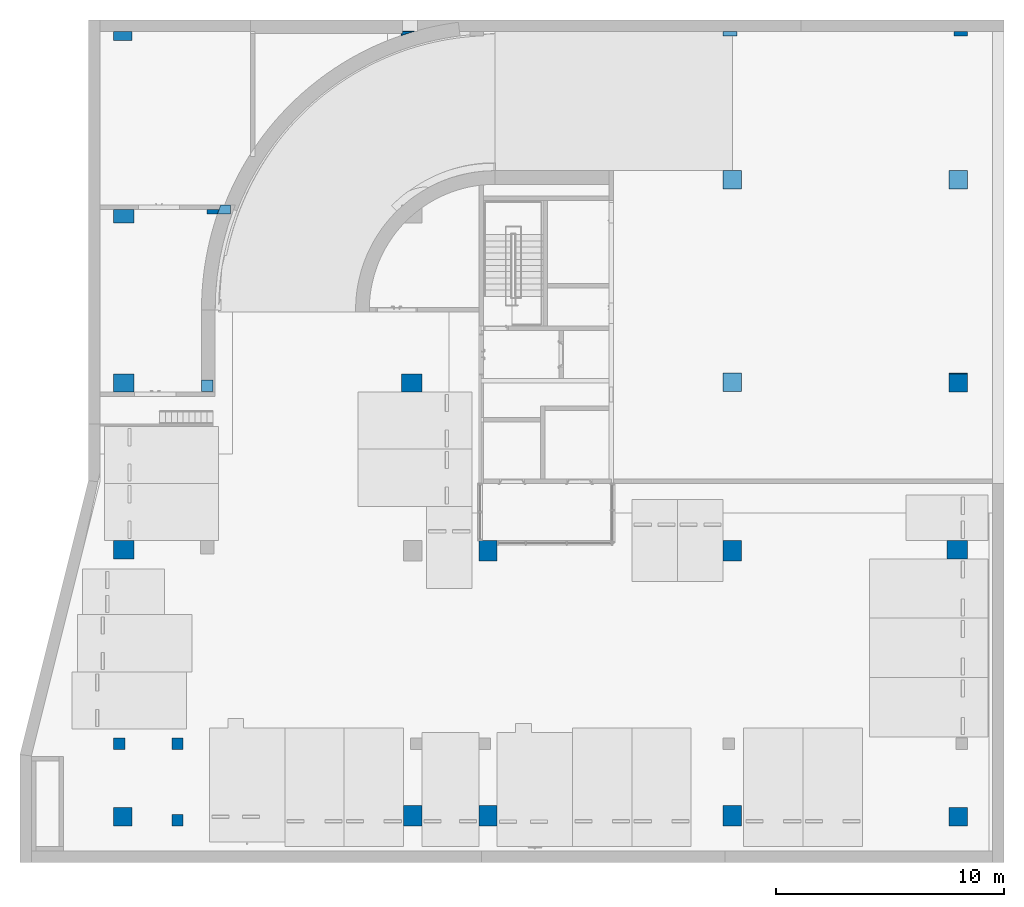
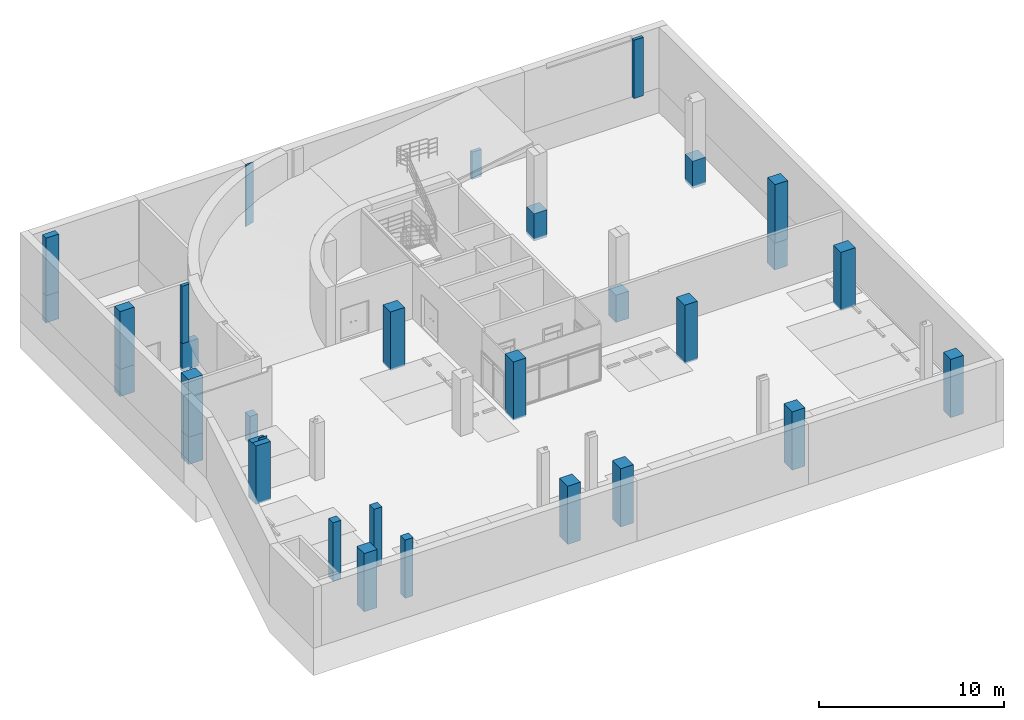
# One storey, part 1 of 30: 30 columns.
"""IFC2X3 building model written with IfcOpenShell, lengths in millimetres."""

from ifc_helpers import new_model, entity, si_unit, converted_unit, derived_unit, direction, frame, frame_2d, origin, origin_2d_with_axis, place, context, subcontext, project, spatial, polyline, circle_curve, parameter, trimmed, segment, composite_curve, rectangle, outline, extrude, faceted_brep, source, transform, mapped, material, type_object, type_shapes, element, save


model = new_model("IFC2X3")

# Units and contexts
model_context = context("Model", 3, precision=0.01, world=origin(), true_north=direction((6.123031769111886e-17, 1.0)))
body_context = subcontext(model_context, "Body", "Model", "MODEL_VIEW")
ifc_project = project(units=[si_unit("LENGTHUNIT", "METRE", prefix="MILLI"), si_unit("AREAUNIT", "SQUARE_METRE"), si_unit("VOLUMEUNIT", "CUBIC_METRE"), converted_unit("PLANEANGLEUNIT", "DEGREE", entity("IfcRatioMeasure", 0.017453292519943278), si_unit("PLANEANGLEUNIT", "RADIAN"), dimensions=[0, 0, 0, 0, 0, 0, 0]), si_unit("MASSUNIT", "GRAM", prefix="KILO"), derived_unit("MASSDENSITYUNIT", [(si_unit("MASSUNIT", "GRAM", prefix="KILO"), 1), (si_unit("LENGTHUNIT", "METRE"), -3)]), derived_unit("MOMENTOFINERTIAUNIT", [(si_unit("LENGTHUNIT", "METRE"), 4)]), si_unit("TIMEUNIT", "SECOND"), si_unit("FREQUENCYUNIT", "HERTZ"), si_unit("THERMODYNAMICTEMPERATUREUNIT", "DEGREE_CELSIUS"), derived_unit("THERMALTRANSMITTANCEUNIT", [(si_unit("MASSUNIT", "GRAM", prefix="KILO"), 1), (si_unit("THERMODYNAMICTEMPERATUREUNIT", "KELVIN"), -1), (si_unit("TIMEUNIT", "SECOND"), -3)]), derived_unit("VOLUMETRICFLOWRATEUNIT", [(si_unit("LENGTHUNIT", "METRE"), 3), (si_unit("TIMEUNIT", "SECOND"), -1)]), derived_unit("MASSFLOWRATEUNIT", [(si_unit("MASSUNIT", "GRAM", prefix="KILO"), 1), (si_unit("TIMEUNIT", "SECOND"), -1)]), derived_unit("ROTATIONALFREQUENCYUNIT", [(si_unit("TIMEUNIT", "SECOND"), -1)]), si_unit("ELECTRICCURRENTUNIT", "AMPERE"), si_unit("ELECTRICVOLTAGEUNIT", "VOLT"), si_unit("POWERUNIT", "WATT"), si_unit("FORCEUNIT", "NEWTON", prefix="KILO"), si_unit("ILLUMINANCEUNIT", "LUX"), si_unit("LUMINOUSFLUXUNIT", "LUMEN"), si_unit("LUMINOUSINTENSITYUNIT", "CANDELA"), derived_unit("USERDEFINED", [(si_unit("MASSUNIT", "GRAM", prefix="KILO"), -1), (si_unit("LENGTHUNIT", "METRE"), -2), (si_unit("TIMEUNIT", "SECOND"), 3), (si_unit("LUMINOUSFLUXUNIT", "LUMEN"), 1)]), derived_unit("SOUNDPOWERUNIT", [(si_unit("MASSUNIT", "GRAM", prefix="KILO"), 1), (si_unit("LENGTHUNIT", "METRE"), 2), (si_unit("TIMEUNIT", "SECOND"), -3)]), derived_unit("SOUNDPRESSUREUNIT", [(si_unit("MASSUNIT", "GRAM", prefix="KILO"), 1), (si_unit("LENGTHUNIT", "METRE"), -1), (si_unit("TIMEUNIT", "SECOND"), -2)]), derived_unit("LINEARVELOCITYUNIT", [(si_unit("LENGTHUNIT", "METRE"), 1), (si_unit("TIMEUNIT", "SECOND"), -1)]), si_unit("PRESSUREUNIT", "PASCAL"), derived_unit("USERDEFINED", [(si_unit("LENGTHUNIT", "METRE"), -2), (si_unit("MASSUNIT", "GRAM", prefix="KILO"), 1), (si_unit("TIMEUNIT", "SECOND"), -2)]), derived_unit("LINEARFORCEUNIT", [(si_unit("MASSUNIT", "GRAM", prefix="KILO"), 1), (si_unit("LENGTHUNIT", "METRE"), 1), (si_unit("TIMEUNIT", "SECOND"), -2), (si_unit("LENGTHUNIT", "METRE"), -1)]), derived_unit("PLANARFORCEUNIT", [(si_unit("MASSUNIT", "GRAM", prefix="KILO"), 1), (si_unit("LENGTHUNIT", "METRE"), 1), (si_unit("TIMEUNIT", "SECOND"), -2), (si_unit("LENGTHUNIT", "METRE"), -2)])], contexts=[model_context])

# Site, building, storey
site_placement = place(None, frame((-14167.972527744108, -657.2125860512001, 0.0)))
site = spatial("IfcSite", under=ifc_project, at=site_placement, Name="Default", CompositionType="ELEMENT")
building_placement = place(site_placement, origin())
building = spatial("IfcBuilding", under=site, at=building_placement, Name="Sample Building", CompositionType="ELEMENT")
storey_placement = place(building_placement, frame((0.0, 0.0, -10100.0)))
storey = spatial("IfcBuildingStorey", under=building, at=storey_placement, Name="지하2층", CompositionType="ELEMENT", Elevation=-10100.0)

# Columns
ifc_material = material(Name="KBIMS-콘크리트")
column_type_1 = type_object("IfcColumnType", Name="CL111-철근콘크리트구조 기둥 (각형)1:CL111-철근콘크리트구조 기둥 (각형)_800x800_B2-7C3", PredefinedType="COLUMN", material=ifc_material)
shared_shape_1 = source(origin(), body_context, "Body", "SweptSolid", [
    extrude(rectangle(XDim=799.9999999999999, YDim=800.0, at=frame_2d((-5.684341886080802e-14, 0.0), x_axis=(1.0, 0.0))), frame((14467.955105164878, 957.2121951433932, -10100.0), z_axis=(0.0, 0.0, 1.0), x_axis=(0.0, -1.0, 0.0)), (0.0, 0.0, 1.0), 3849.9999999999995),
])
type_shapes(column_type_1, [shared_shape_1])
column_1_placement = place(storey_placement, frame((0.0, 0.0, 10100.0)))
element("IfcColumn", 1, at=column_1_placement, inside=storey, type_object=column_type_1, material=ifc_material, Name="CL111-철근콘크리트구조 기둥 (각형)1:CL111-철근콘크리트구조 기둥 (각형)_800x800_B2-7C3", ObjectType="CL111-철근콘크리트구조 기둥 (각형)1:CL111-철근콘크리트구조 기둥 (각형)_800x800_B2-7C3", context=body_context, shape_type="MappedRepresentation", body=[
    mapped(shared_shape_1, transform((0.0, 0.0, 0.0), scale=1.0)),
])
column_type_2 = type_object("IfcColumnType", Name="CL111-철근콘크리트구조 기둥 (각형)1:CL111-철근콘크리트구조 기둥 (각형)_800x900_B2-1C2", PredefinedType="COLUMN", material=ifc_material)
shared_shape_2 = source(origin(), body_context, "Body", "SweptSolid", [
    extrude(rectangle(XDim=900.0000000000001, YDim=800.0, at=frame_2d((-8.526512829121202e-14, 0.0), x_axis=(1.0, 0.0))), frame((27167.955141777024, 1007.2126041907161, -10100.0), z_axis=(0.0, 0.0, 1.0), x_axis=(0.0, -1.0, 0.0)), (0.0, 0.0, 1.0), 3849.9999999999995),
])
type_shapes(column_type_2, [shared_shape_2])
column_2_placement = place(storey_placement, frame((0.0, 0.0, 10100.0)))
element("IfcColumn", 2, at=column_2_placement, inside=storey, type_object=column_type_2, material=ifc_material, Name="CL111-철근콘크리트구조 기둥 (각형)1:CL111-철근콘크리트구조 기둥 (각형)_800x900_B2-1C2", ObjectType="CL111-철근콘크리트구조 기둥 (각형)1:CL111-철근콘크리트구조 기둥 (각형)_800x900_B2-1C2", context=body_context, shape_type="MappedRepresentation", body=[
    mapped(shared_shape_2, transform((0.0, 0.0, 0.0), scale=1.0)),
])
column_type_3 = type_object("IfcColumnType", Name="CL111-철근콘크리트구조 기둥 (각형)1:CL111-철근콘크리트구조 기둥 (각형)_800x900_B2-1C2", PredefinedType="COLUMN", material=ifc_material)
shared_shape_3 = source(origin(), body_context, "Body", "SweptSolid", [
    extrude(rectangle(XDim=900.0000000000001, YDim=800.0, at=frame_2d((-8.526512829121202e-14, 0.0), x_axis=(1.0, 0.0))), frame((30467.95511434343, 1007.2121951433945, -10100.0), z_axis=(0.0, 0.0, 1.0), x_axis=(0.0, -1.0, 0.0)), (0.0, 0.0, 1.0), 3849.9999999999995),
])
type_shapes(column_type_3, [shared_shape_3])
column_3_placement = place(storey_placement, frame((0.0, 0.0, 10100.0)))
element("IfcColumn", 3, at=column_3_placement, inside=storey, type_object=column_type_3, material=ifc_material, Name="CL111-철근콘크리트구조 기둥 (각형)1:CL111-철근콘크리트구조 기둥 (각형)_800x900_B2-1C2", ObjectType="CL111-철근콘크리트구조 기둥 (각형)1:CL111-철근콘크리트구조 기둥 (각형)_800x900_B2-1C2", context=body_context, shape_type="MappedRepresentation", body=[
    mapped(shared_shape_3, transform((0.0, 0.0, 0.0), scale=1.0)),
])
column_type_4 = type_object("IfcColumnType", Name="CL111-철근콘크리트구조 기둥 (각형)1:CL111-철근콘크리트구조 기둥 (각형)_800x900_B2-1C2", PredefinedType="COLUMN", material=ifc_material)
shared_shape_4 = source(origin(), body_context, "Body", "SweptSolid", [
    extrude(rectangle(XDim=900.0000000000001, YDim=800.0, at=frame_2d((-8.526512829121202e-14, -4.348521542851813e-12), x_axis=(1.0, 0.0))), frame((41167.95503460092, 1007.2121951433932, -10100.0), z_axis=(0.0, 0.0, 1.0), x_axis=(0.0, -1.0, 0.0)), (0.0, 0.0, 1.0), 3849.9999999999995),
])
type_shapes(column_type_4, [shared_shape_4])
column_4_placement = place(storey_placement, frame((0.0, 0.0, 10100.0)))
element("IfcColumn", 4, at=column_4_placement, inside=storey, type_object=column_type_4, material=ifc_material, Name="CL111-철근콘크리트구조 기둥 (각형)1:CL111-철근콘크리트구조 기둥 (각형)_800x900_B2-1C2", ObjectType="CL111-철근콘크리트구조 기둥 (각형)1:CL111-철근콘크리트구조 기둥 (각형)_800x900_B2-1C2", context=body_context, shape_type="MappedRepresentation", body=[
    mapped(shared_shape_4, transform((0.0, 0.0, 0.0), scale=1.0)),
])
column_type_5 = type_object("IfcColumnType", Name="CL111-철근콘크리트구조 기둥 (각형)1:CL111-철근콘크리트구조 기둥 (각형)_800x800_B2-7C3", PredefinedType="COLUMN", material=ifc_material)
shared_shape_5 = source(origin(), body_context, "Body", "SweptSolid", [
    extrude(rectangle(XDim=799.9999999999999, YDim=800.0, at=frame_2d((-5.684341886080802e-14, -4.348521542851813e-12), x_axis=(1.0, 0.0))), frame((51067.96383810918, 957.2128951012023, -10100.0), z_axis=(0.0, 0.0, 1.0), x_axis=(0.0, -1.0, 0.0)), (0.0, 0.0, 1.0), 3849.9999999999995),
])
type_shapes(column_type_5, [shared_shape_5])
column_5_placement = place(storey_placement, frame((0.0, 0.0, 10100.0)))
element("IfcColumn", 5, at=column_5_placement, inside=storey, type_object=column_type_5, material=ifc_material, Name="CL111-철근콘크리트구조 기둥 (각형)1:CL111-철근콘크리트구조 기둥 (각형)_800x800_B2-7C3", ObjectType="CL111-철근콘크리트구조 기둥 (각형)1:CL111-철근콘크리트구조 기둥 (각형)_800x800_B2-7C3", context=body_context, shape_type="MappedRepresentation", body=[
    mapped(shared_shape_5, transform((0.0, 0.0, 0.0), scale=1.0)),
])
column_type_6 = type_object("IfcColumnType", Name="CL111-철근콘크리트구조 기둥 (각형)1:CL111-철근콘크리트구조 기둥 (각형)_500x500_B2-B1C11", PredefinedType="COLUMN", material=ifc_material)
shared_shape_6 = source(origin(), body_context, "Body", "SweptSolid", [
    extrude(rectangle(XDim=500.00000000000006, YDim=499.999999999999, at=origin_2d_with_axis()), frame((14317.955105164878, 4157.212692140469, -10100.0), z_axis=(0.0, 0.0, 1.0), x_axis=(0.0, -1.0, 0.0)), (0.0, 0.0, 1.0), 3849.9999999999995),
])
type_shapes(column_type_6, [shared_shape_6])
column_6_placement = place(storey_placement, frame((0.0, 0.0, 10100.0)))
element("IfcColumn", 6, at=column_6_placement, inside=storey, type_object=column_type_6, material=ifc_material, Name="CL111-철근콘크리트구조 기둥 (각형)1:CL111-철근콘크리트구조 기둥 (각형)_500x500_B2-B1C11", ObjectType="CL111-철근콘크리트구조 기둥 (각형)1:CL111-철근콘크리트구조 기둥 (각형)_500x500_B2-B1C11", context=body_context, shape_type="MappedRepresentation", body=[
    mapped(shared_shape_6, transform((0.0, 0.0, 0.0), scale=1.0)),
])
column_type_7 = type_object("IfcColumnType", Name="CL111-철근콘크리트구조 기둥 (각형)1:CL111-철근콘크리트구조 기둥 (각형)_800x900_B2-1C2", PredefinedType="COLUMN", material=ifc_material)
shared_shape_7 = source(origin(), body_context, "Body", "Brep", [
    faceted_brep([(0.0, 800.0, 0.0), (900.0, 800.0, 0.0), (900.0, 0.0, 0.0), (0.0, 0.0, 0.0), (0.0, 800.0, 3800.0), (900.0, 800.0, 3800.0), (900.0, 399.9996909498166, 3800.0), (900.0, 399.9996909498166, 4000.0), (900.0, 375.7461284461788, 4000.0), (900.0, 375.7461284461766, 3850.0), (900.0, 0.0, 3850.0), (0.0, 0.0, 3850.0), (0.0, 375.7461284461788, 3850.0), (0.0, 375.7461284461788, 3800.0), (400.017349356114, 375.7461284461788, 4000.0), (400.017349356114, 399.9996909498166, 4000.0), (400.017349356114, 375.7461284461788, 3850.0), (400.017349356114, 375.7461284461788, 3800.0), (400.017349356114, 399.99969094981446, 3800.0)], [[[0, 1, 2, 3]], [[1, 0, 4, 5]], [[2, 1, 5, 6, 7, 8, 9, 10]], [[3, 2, 10, 11]], [[0, 3, 11, 12, 13, 4]], [[14, 8, 7, 15]], [[10, 9, 16, 12, 11]], [[9, 8, 14, 16]], [[13, 17, 18, 6, 5, 4]], [[16, 17, 13, 12]], [[17, 16, 14, 15, 18]], [[6, 18, 15, 7]]]),
])
type_shapes(column_type_7, [shared_shape_7])
column_7_placement = place(storey_placement, frame((14067.955105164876, 12257.212617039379, 0.0)))
element("IfcColumn", 7, at=column_7_placement, inside=storey, type_object=column_type_7, material=ifc_material, Name="CL111-철근콘크리트구조 기둥 (각형)1:CL111-철근콘크리트구조 기둥 (각형)_800x900_B2-1C2", ObjectType="CL111-철근콘크리트구조 기둥 (각형)1:CL111-철근콘크리트구조 기둥 (각형)_800x900_B2-1C2", context=body_context, shape_type="MappedRepresentation", body=[
    mapped(shared_shape_7, transform((0.0, 0.0, 0.0), scale=1.0)),
])
column_type_8 = type_object("IfcColumnType", Name="CL111-철근콘크리트구조 기둥 (각형)1:CL111-철근콘크리트구조 기둥 (각형)_800x900_B2-1C2", PredefinedType="COLUMN", material=ifc_material)
shared_shape_8 = source(origin(), body_context, "Body", "SweptSolid", [
    extrude(rectangle(XDim=899.999999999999, YDim=800.0, at=origin_2d_with_axis()), frame((30467.95511434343, 12607.212617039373, -10100.0), z_axis=(0.0, 0.0, 1.0), x_axis=(0.0, -1.0, 0.0)), (0.0, 0.0, 1.0), 3850.000000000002),
])
type_shapes(column_type_8, [shared_shape_8])
column_8_placement = place(storey_placement, frame((0.0, 0.0, 10100.0)))
element("IfcColumn", 8, at=column_8_placement, inside=storey, type_object=column_type_8, material=ifc_material, Name="CL111-철근콘크리트구조 기둥 (각형)1:CL111-철근콘크리트구조 기둥 (각형)_800x900_B2-1C2", ObjectType="CL111-철근콘크리트구조 기둥 (각형)1:CL111-철근콘크리트구조 기둥 (각형)_800x900_B2-1C2", context=body_context, shape_type="MappedRepresentation", body=[
    mapped(shared_shape_8, transform((0.0, 0.0, 0.0), scale=1.0)),
])
column_type_9 = type_object("IfcColumnType", Name="CL111-철근콘크리트구조 기둥 (각형)1:CL111-철근콘크리트구조 기둥 (각형)_800x900_B2-1C2", PredefinedType="COLUMN", material=ifc_material)
shared_shape_9 = source(origin(), body_context, "Body", "SweptSolid", [
    extrude(rectangle(XDim=899.999999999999, YDim=800.0, at=frame_2d((0.0, -4.348521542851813e-12), x_axis=(1.0, 0.0))), frame((41167.95503460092, 12607.212617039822, -10100.0), z_axis=(0.0, 0.0, 1.0), x_axis=(0.0, -1.0, 0.0)), (0.0, 0.0, 1.0), 3850.000000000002),
])
type_shapes(column_type_9, [shared_shape_9])
column_9_placement = place(storey_placement, frame((0.0, 0.0, 10100.0)))
element("IfcColumn", 9, at=column_9_placement, inside=storey, type_object=column_type_9, material=ifc_material, Name="CL111-철근콘크리트구조 기둥 (각형)1:CL111-철근콘크리트구조 기둥 (각형)_800x900_B2-1C2", ObjectType="CL111-철근콘크리트구조 기둥 (각형)1:CL111-철근콘크리트구조 기둥 (각형)_800x900_B2-1C2", context=body_context, shape_type="MappedRepresentation", body=[
    mapped(shared_shape_9, transform((0.0, 0.0, 0.0), scale=1.0)),
])
column_type_10 = type_object("IfcColumnType", Name="CL111-철근콘크리트구조 기둥 (각형)1:CL111-철근콘크리트구조 기둥 (각형)_800x900_B2-1C2", PredefinedType="COLUMN", material=ifc_material)
shared_shape_10 = source(origin(), body_context, "Body", "SweptSolid", [
    extrude(rectangle(XDim=800.0000000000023, YDim=900.0000000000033, at=origin_2d_with_axis()), frame((51017.96383810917, 12657.213038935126, -10100.0), z_axis=(0.0, 0.0, 1.0), x_axis=(0.0, -1.0, 0.0)), (0.0, 0.0, 1.0), 3850.000000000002),
])
type_shapes(column_type_10, [shared_shape_10])
column_10_placement = place(storey_placement, frame((0.0, 0.0, 10100.0)))
element("IfcColumn", 10, at=column_10_placement, inside=storey, type_object=column_type_10, material=ifc_material, Name="CL111-철근콘크리트구조 기둥 (각형)1:CL111-철근콘크리트구조 기둥 (각형)_800x900_B2-1C2", ObjectType="CL111-철근콘크리트구조 기둥 (각형)1:CL111-철근콘크리트구조 기둥 (각형)_800x900_B2-1C2", context=body_context, shape_type="MappedRepresentation", body=[
    mapped(shared_shape_10, transform((0.0, 0.0, 0.0), scale=1.0)),
])
column_type_11 = type_object("IfcColumnType", Name="CL111-철근콘크리트구조 기둥 (각형)1:CL111-철근콘크리트구조 기둥 (각형)_800x900_B2-1C2", PredefinedType="COLUMN", material=ifc_material)
shared_shape_11 = source(origin(), body_context, "Body", "SweptSolid", [
    extrude(rectangle(XDim=800.0, YDim=900.0000000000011, at=origin_2d_with_axis()), frame((14517.955105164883, 19957.21261703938, -10100.0), z_axis=(0.0, 0.0, 1.0), x_axis=(0.0, -1.0, 0.0)), (0.0, 0.0, 1.0), 3800.0000000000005),
])
type_shapes(column_type_11, [shared_shape_11])
column_11_placement = place(storey_placement, frame((0.0, 0.0, 10100.0)))
element("IfcColumn", 11, at=column_11_placement, inside=storey, type_object=column_type_11, material=ifc_material, Name="CL111-철근콘크리트구조 기둥 (각형)1:CL111-철근콘크리트구조 기둥 (각형)_800x900_B2-1C2", ObjectType="CL111-철근콘크리트구조 기둥 (각형)1:CL111-철근콘크리트구조 기둥 (각형)_800x900_B2-1C2", context=body_context, shape_type="MappedRepresentation", body=[
    mapped(shared_shape_11, transform((0.0, 0.0, 0.0), scale=1.0)),
])
column_type_12 = type_object("IfcColumnType", Name="CL111-철근콘크리트구조 기둥 (각형)1:CL111-철근콘크리트구조 기둥 (각형)_800x900_B2-1C2", PredefinedType="COLUMN", material=ifc_material)
shared_shape_12 = source(origin(), body_context, "Body", "SweptSolid", [
    extrude(rectangle(XDim=800.0, YDim=899.999999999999, at=origin_2d_with_axis()), frame((27117.955141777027, 19957.212617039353, -10100.0), z_axis=(0.0, 0.0, 1.0), x_axis=(0.0, -1.0, 0.0)), (0.0, 0.0, 1.0), 3849.9999999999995),
])
type_shapes(column_type_12, [shared_shape_12])
column_12_placement = place(storey_placement, frame((0.0, 0.0, 10100.0)))
element("IfcColumn", 12, at=column_12_placement, inside=storey, type_object=column_type_12, material=ifc_material, Name="CL111-철근콘크리트구조 기둥 (각형)1:CL111-철근콘크리트구조 기둥 (각형)_800x900_B2-1C2", ObjectType="CL111-철근콘크리트구조 기둥 (각형)1:CL111-철근콘크리트구조 기둥 (각형)_800x900_B2-1C2", context=body_context, shape_type="MappedRepresentation", body=[
    mapped(shared_shape_12, transform((0.0, 0.0, 0.0), scale=1.0)),
])
column_type_13 = type_object("IfcColumnType", Name="CL111-철근콘크리트구조 기둥 (각형)1:CL111-철근콘크리트구조 기둥 (각형)_800x800_B2-4C1", PredefinedType="COLUMN", material=ifc_material)
shared_shape_13 = source(origin(), body_context, "Body", "SweptSolid", [
    extrude(rectangle(XDim=800.0, YDim=800.0, at=frame_2d((0.0, -4.348521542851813e-12), x_axis=(1.0, 0.0))), frame((51067.95513594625, 19957.21261703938, -10100.0), z_axis=(0.0, 0.0, 1.0), x_axis=(0.0, -1.0, 0.0)), (0.0, 0.0, 1.0), 3850.000000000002),
])
type_shapes(column_type_13, [shared_shape_13])
column_13_placement = place(storey_placement, frame((0.0, 0.0, 10100.0)))
element("IfcColumn", 13, at=column_13_placement, inside=storey, type_object=column_type_13, material=ifc_material, Name="CL111-철근콘크리트구조 기둥 (각형)1:CL111-철근콘크리트구조 기둥 (각형)_800x800_B2-4C1", ObjectType="CL111-철근콘크리트구조 기둥 (각형)1:CL111-철근콘크리트구조 기둥 (각형)_800x800_B2-4C1", context=body_context, shape_type="MappedRepresentation", body=[
    mapped(shared_shape_13, transform((0.0, 0.0, 0.0), scale=1.0)),
])
column_type_14 = type_object("IfcColumnType", Name="CL111-철근콘크리트구조 기둥 (각형)1:CL111-철근콘크리트구조 기둥 (각형)_800x900_B2-1C2", PredefinedType="COLUMN", material=ifc_material)
shared_shape_14 = source(origin(), body_context, "Body", "SweptSolid", [
    extrude(rectangle(XDim=599.9996909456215, YDim=899.999999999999, at=frame_2d((2.1600499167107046e-12, 0.0), x_axis=(1.0, 0.0))), frame((14517.955086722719, 27257.212462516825, -10100.0), z_axis=(0.0, 0.0, 1.0), x_axis=(0.0, -1.0, 0.0)), (0.0, 0.0, 1.0), 3800.0000000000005),
])
type_shapes(column_type_14, [shared_shape_14])
column_14_placement = place(storey_placement, frame((0.0, 0.0, 10100.0)))
element("IfcColumn", 14, at=column_14_placement, inside=storey, type_object=column_type_14, material=ifc_material, Name="CL111-철근콘크리트구조 기둥 (각형)1:CL111-철근콘크리트구조 기둥 (각형)_800x900_B2-1C2", ObjectType="CL111-철근콘크리트구조 기둥 (각형)1:CL111-철근콘크리트구조 기둥 (각형)_800x900_B2-1C2", context=body_context, shape_type="MappedRepresentation", body=[
    mapped(shared_shape_14, transform((0.0, 0.0, 0.0), scale=1.0)),
])
column_type_15 = type_object("IfcColumnType", Name="CL111-철근콘크리트구조 기둥 (각형)1:CL111-철근콘크리트구조 기둥 (각형)_1020x400_B2-B1C13", PredefinedType="COLUMN", material=ifc_material)
shared_shape_15 = source(origin(), body_context, "Body", "SweptSolid", [
    extrude(outline(composite_curve([segment(polyline([(-99.99984547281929, -241.11330746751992), (99.99984547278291, -241.11330746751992)]), True, "CONTINUOUS"), segment(polyline([(99.99984547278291, -241.11330746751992), (99.99984547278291, 206.0622338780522)]), True, "CONTINUOUS"), segment(trimmed(circle_curve(frame_2d((4300.000154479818, 12508.90732762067), x_axis=(-0.32307694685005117, -0.9463726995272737)), 12999.999999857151), [parameter(359.06593765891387)], [parameter(0.0)], True, "PARAMETER"), False, "CONTINUOUS"), segment(polyline([(-99.99984547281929, 276.16438105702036), (-99.99984547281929, -241.11330746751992)]), True, "CONTINUOUS")], self_intersect=False)), frame((18409.059756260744, 27457.212462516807, -10100.0), z_axis=(0.0, 0.0, 1.0), x_axis=(0.0, -1.0, 0.0)), (0.0, 0.0, 1.0), 3800.0000000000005),
])
type_shapes(column_type_15, [shared_shape_15])
column_15_placement = place(storey_placement, frame((0.0, 0.0, 10100.0)))
element("IfcColumn", 15, at=column_15_placement, inside=storey, type_object=column_type_15, material=ifc_material, Name="CL111-철근콘크리트구조 기둥 (각형)1:CL111-철근콘크리트구조 기둥 (각형)_1020x400_B2-B1C13", ObjectType="CL111-철근콘크리트구조 기둥 (각형)1:CL111-철근콘크리트구조 기둥 (각형)_1020x400_B2-B1C13", context=body_context, shape_type="MappedRepresentation", body=[
    mapped(shared_shape_15, transform((0.0, 0.0, 0.0), scale=1.0)),
])
column_type_16 = type_object("IfcColumnType", Name="CL111-철근콘크리트구조 기둥 (각형)1:CL111-철근콘크리트구조 기둥 (각형)_800x800_B2-7C3", PredefinedType="COLUMN", material=ifc_material)
shared_shape_16 = source(origin(), body_context, "Body", "SweptSolid", [
    extrude(rectangle(XDim=399.96503478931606, YDim=800.0, at=frame_2d((-2.1742607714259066e-12, 0.0), x_axis=(1.0, 0.0))), frame((14467.955105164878, 35157.19510700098, -10100.0), z_axis=(0.0, 0.0, 1.0), x_axis=(0.0, -1.0, 0.0)), (0.0, 0.0, 1.0), 3800.0000000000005),
])
type_shapes(column_type_16, [shared_shape_16])
column_16_placement = place(storey_placement, frame((0.0, 0.0, 10100.0)))
element("IfcColumn", 16, at=column_16_placement, inside=storey, type_object=column_type_16, material=ifc_material, Name="CL111-철근콘크리트구조 기둥 (각형)1:CL111-철근콘크리트구조 기둥 (각형)_800x800_B2-7C3", ObjectType="CL111-철근콘크리트구조 기둥 (각형)1:CL111-철근콘크리트구조 기둥 (각형)_800x800_B2-7C3", context=body_context, shape_type="MappedRepresentation", body=[
    mapped(shared_shape_16, transform((0.0, 0.0, 0.0), scale=1.0)),
])
column_type_17 = type_object("IfcColumnType", Name="CL111-철근콘크리트구조 기둥 (각형)1:CL111-철근콘크리트구조 기둥 (각형)_800x900_B2-1C2", PredefinedType="COLUMN", material=ifc_material)
shared_shape_17 = source(origin(), body_context, "Body", "SweptSolid", [
    extrude(outline(composite_curve([segment(polyline([(24.00242535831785, -138.29527505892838), (103.9902985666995, -138.29527505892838)]), True, "CONTINUOUS"), segment(trimmed(circle_curve(frame_2d((12123.967741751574, 3961.7220742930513), x_axis=(-0.9464549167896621, -0.32283601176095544)), 12699.99999998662), [parameter(357.2968455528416)], [parameter(0.0)], True, "PARAMETER"), False, "CONTINUOUS"), segment(polyline([(-75.99757464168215, 433.1464015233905), (-75.99757464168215, -78.27792570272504)]), True, "CONTINUOUS"), segment(polyline([(-75.99757464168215, -78.27792570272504), (24.00242535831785, -78.27792570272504)]), True, "CONTINUOUS"), segment(polyline([(24.00242535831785, -78.27792570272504), (24.00242535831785, -138.29527505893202)]), True, "CONTINUOUS")], self_intersect=False)), frame((26806.250416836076, 35281.18004975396, -10100.0), z_axis=(0.0, 0.0, 1.0), x_axis=(0.0, -1.0, 0.0)), (0.0, 0.0, 1.0), 4000.0000000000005),
])
type_shapes(column_type_17, [shared_shape_17])
column_17_placement = place(storey_placement, frame((0.0, 0.0, 10100.0)))
element("IfcColumn", 17, at=column_17_placement, inside=storey, type_object=column_type_17, material=ifc_material, Name="CL111-철근콘크리트구조 기둥 (각형)1:CL111-철근콘크리트구조 기둥 (각형)_800x900_B2-1C2", ObjectType="CL111-철근콘크리트구조 기둥 (각형)1:CL111-철근콘크리트구조 기둥 (각형)_800x900_B2-1C2", context=body_context, shape_type="MappedRepresentation", body=[
    mapped(shared_shape_17, transform((0.0, 0.0, 0.0), scale=1.0)),
])
column_type_18 = type_object("IfcColumnType", Name="CL111-철근콘크리트구조 기둥 (각형)1:CL111-철근콘크리트구조 기둥 (각형)_600x600_B2-B2C12", PredefinedType="COLUMN", material=ifc_material)
shared_shape_18 = source(origin(), body_context, "Body", "SweptSolid", [
    extrude(rectangle(XDim=199.96500735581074, YDim=600.0000010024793, at=frame_2d((0.008670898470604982, -8.668621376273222e-12), x_axis=(1.0, 0.0))), frame((51167.95513594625, 35257.20379161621, -10100.0), z_axis=(0.0, 0.0, 1.0), x_axis=(0.0, -1.0, 0.0)), (0.0, 0.0, 1.0), 3849.9999999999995),
])
type_shapes(column_type_18, [shared_shape_18])
column_18_placement = place(storey_placement, frame((0.0, 0.0, 10100.0)))
element("IfcColumn", 18, at=column_18_placement, inside=storey, type_object=column_type_18, material=ifc_material, Name="CL111-철근콘크리트구조 기둥 (각형)1:CL111-철근콘크리트구조 기둥 (각형)_600x600_B2-B2C12", ObjectType="CL111-철근콘크리트구조 기둥 (각형)1:CL111-철근콘크리트구조 기둥 (각형)_600x600_B2-B2C12", context=body_context, shape_type="MappedRepresentation", body=[
    mapped(shared_shape_18, transform((0.0, 0.0, 0.0), scale=1.0)),
])
column_type_19 = type_object("IfcColumnType", Name="CL111-철근콘크리트구조 기둥 (각형)1:CL111-철근콘크리트구조 기둥 (각형)_800x900_B2-1C2", PredefinedType="COLUMN", material=ifc_material)
shared_shape_19 = source(origin(), body_context, "Body", "SweptSolid", [
    extrude(rectangle(XDim=800.0, YDim=900.0000000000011, at=origin_2d_with_axis()), frame((14517.955105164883, 19957.21261703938, -11900.0), z_axis=(0.0, 0.0, 1.0), x_axis=(0.0, -1.0, 0.0)), (0.0, 0.0, 1.0), 1799.999999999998),
])
type_shapes(column_type_19, [shared_shape_19])
column_19_placement = place(storey_placement, frame((0.0, 0.0, 10100.0)))
element("IfcColumn", 19, at=column_19_placement, inside=storey, type_object=column_type_19, material=ifc_material, Name="CL111-철근콘크리트구조 기둥 (각형)1:CL111-철근콘크리트구조 기둥 (각형)_800x900_B2-1C2", ObjectType="CL111-철근콘크리트구조 기둥 (각형)1:CL111-철근콘크리트구조 기둥 (각형)_800x900_B2-1C2", context=body_context, shape_type="MappedRepresentation", body=[
    mapped(shared_shape_19, transform((0.0, 0.0, 0.0), scale=1.0)),
])
column_type_20 = type_object("IfcColumnType", Name="CL111-철근콘크리트구조 기둥 (각형)1:CL111-철근콘크리트구조 기둥 (각형)_500x500_B2-B1C11", PredefinedType="COLUMN", material=ifc_material)
shared_shape_20 = source(origin(), body_context, "Body", "SweptSolid", [
    extrude(rectangle(XDim=499.999999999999, YDim=499.999999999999, at=origin_2d_with_axis()), frame((18167.946448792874, 19844.712541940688, -11900.0), z_axis=(0.0, 0.0, 1.0), x_axis=(0.0, -1.0, 0.0)), (0.0, 0.0, 1.0), 1799.999999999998),
])
type_shapes(column_type_20, [shared_shape_20])
column_20_placement = place(storey_placement, frame((0.0, 0.0, 10100.0)))
element("IfcColumn", 20, at=column_20_placement, inside=storey, type_object=column_type_20, material=ifc_material, Name="CL111-철근콘크리트구조 기둥 (각형)1:CL111-철근콘크리트구조 기둥 (각형)_500x500_B2-B1C11", ObjectType="CL111-철근콘크리트구조 기둥 (각형)1:CL111-철근콘크리트구조 기둥 (각형)_500x500_B2-B1C11", context=body_context, shape_type="MappedRepresentation", body=[
    mapped(shared_shape_20, transform((0.0, 0.0, 0.0), scale=1.0)),
])
column_type_21 = type_object("IfcColumnType", Name="CL111-철근콘크리트구조 기둥 (각형)1:CL111-철근콘크리트구조 기둥 (각형)_800x900_B2-1C2", PredefinedType="COLUMN", material=ifc_material)
shared_shape_21 = source(origin(), body_context, "Body", "SweptSolid", [
    extrude(rectangle(XDim=599.9996909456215, YDim=899.999999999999, at=frame_2d((2.1600499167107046e-12, 0.0), x_axis=(1.0, 0.0))), frame((14517.955086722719, 27257.212462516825, -11900.0), z_axis=(0.0, 0.0, 1.0), x_axis=(0.0, -1.0, 0.0)), (0.0, 0.0, 1.0), 1799.999999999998),
])
type_shapes(column_type_21, [shared_shape_21])
column_21_placement = place(storey_placement, frame((0.0, 0.0, 10100.0)))
element("IfcColumn", 21, at=column_21_placement, inside=storey, type_object=column_type_21, material=ifc_material, Name="CL111-철근콘크리트구조 기둥 (각형)1:CL111-철근콘크리트구조 기둥 (각형)_800x900_B2-1C2", ObjectType="CL111-철근콘크리트구조 기둥 (각형)1:CL111-철근콘크리트구조 기둥 (각형)_800x900_B2-1C2", context=body_context, shape_type="MappedRepresentation", body=[
    mapped(shared_shape_21, transform((0.0, 0.0, 0.0), scale=1.0)),
])
column_type_22 = type_object("IfcColumnType", Name="CL111-철근콘크리트구조 기둥 (각형)1:CL111-철근콘크리트구조 기둥 (각형)_1020x400_B2-B1C13", PredefinedType="COLUMN", material=ifc_material)
shared_shape_22 = source(origin(), body_context, "Body", "SweptSolid", [
    extrude(outline(composite_curve([segment(polyline([(0.00020603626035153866, -524.7251863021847), (199.99989698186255, -524.7251863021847)]), True, "CONTINUOUS"), segment(polyline([(199.99989698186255, -524.7251863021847), (199.99989698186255, 495.27481369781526)]), True, "CONTINUOUS"), segment(polyline([(199.99989698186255, 495.27481369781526), (-200.00010301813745, 495.27481369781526)]), True, "CONTINUOUS"), segment(polyline([(-200.00010301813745, 495.27481369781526), (-200.00010301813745, 66.34824298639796)]), True, "CONTINUOUS"), segment(trimmed(circle_curve(frame_2d((4400.000205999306, 12225.295448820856), x_axis=(-0.3538461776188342, -0.9353036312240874)), 12999.999999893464), [parameter(0.0)], [parameter(0.9395754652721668)], True, "PARAMETER"), True, "CONTINUOUS"), segment(polyline([(0.00020603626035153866, -7.4474977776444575), (0.00020603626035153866, -524.7251863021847)]), True, "CONTINUOUS")], self_intersect=False)), frame((18692.67163509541, 27557.212514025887, -11900.0), z_axis=(0.0, 0.0, 1.0), x_axis=(0.0, -1.0, 0.0)), (0.0, 0.0, 1.0), 1800.0000000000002),
])
type_shapes(column_type_22, [shared_shape_22])
column_22_placement = place(storey_placement, frame((0.0, 0.0, 10100.0)))
element("IfcColumn", 22, at=column_22_placement, inside=storey, type_object=column_type_22, material=ifc_material, Name="CL111-철근콘크리트구조 기둥 (각형)1:CL111-철근콘크리트구조 기둥 (각형)_1020x400_B2-B1C13", ObjectType="CL111-철근콘크리트구조 기둥 (각형)1:CL111-철근콘크리트구조 기둥 (각형)_1020x400_B2-B1C13", context=body_context, shape_type="MappedRepresentation", body=[
    mapped(shared_shape_22, transform((0.0, 0.0, 0.0), scale=1.0)),
])
column_type_23 = type_object("IfcColumnType", Name="CL111-철근콘크리트구조 기둥 (각형)1:CL111-철근콘크리트구조 기둥 (각형)_800x800_B2-7C3", PredefinedType="COLUMN", material=ifc_material)
shared_shape_23 = source(origin(), body_context, "Body", "SweptSolid", [
    extrude(rectangle(XDim=399.99971838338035, YDim=800.0, at=frame_2d((-2.1742607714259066e-12, 0.0), x_axis=(1.0, 0.0))), frame((14467.955105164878, 35157.21244879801, -11900.0), z_axis=(0.0, 0.0, 1.0), x_axis=(0.0, -1.0, 0.0)), (0.0, 0.0, 1.0), 1799.999999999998),
])
type_shapes(column_type_23, [shared_shape_23])
column_23_placement = place(storey_placement, frame((0.0, 0.0, 10100.0)))
element("IfcColumn", 23, at=column_23_placement, inside=storey, type_object=column_type_23, material=ifc_material, Name="CL111-철근콘크리트구조 기둥 (각형)1:CL111-철근콘크리트구조 기둥 (각형)_800x800_B2-7C3", ObjectType="CL111-철근콘크리트구조 기둥 (각형)1:CL111-철근콘크리트구조 기둥 (각형)_800x800_B2-7C3", context=body_context, shape_type="MappedRepresentation", body=[
    mapped(shared_shape_23, transform((0.0, 0.0, 0.0), scale=1.0)),
])
column_type_24 = type_object("IfcColumnType", Name="CL111-철근콘크리트구조 기둥 (각형)1:CL111-철근콘크리트구조 기둥 (각형)_500x500_B2-B1C11", PredefinedType="COLUMN", material=ifc_material)
shared_shape_24 = source(origin(), body_context, "Body", "SweptSolid", [
    extrude(rectangle(XDim=500.0, YDim=499.999999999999, at=frame_2d((-4.263256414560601e-14, 0.0), x_axis=(1.0, 0.0))), frame((16867.946448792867, 807.2126041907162, -10100.0), z_axis=(0.0, 0.0, 1.0), x_axis=(0.0, -1.0, 0.0)), (0.0, 0.0, 1.0), 3849.9999999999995),
])
type_shapes(column_type_24, [shared_shape_24])
column_24_placement = place(storey_placement, frame((0.0, 0.0, 10100.0)))
element("IfcColumn", 24, at=column_24_placement, inside=storey, type_object=column_type_24, material=ifc_material, Name="CL111-철근콘크리트구조 기둥 (각형)1:CL111-철근콘크리트구조 기둥 (각형)_500x500_B2-B1C11", ObjectType="CL111-철근콘크리트구조 기둥 (각형)1:CL111-철근콘크리트구조 기둥 (각형)_500x500_B2-B1C11", context=body_context, shape_type="MappedRepresentation", body=[
    mapped(shared_shape_24, transform((0.0, 0.0, 0.0), scale=1.0)),
])
column_type_25 = type_object("IfcColumnType", Name="CL111-철근콘크리트구조 기둥 (각형)1:CL111-철근콘크리트구조 기둥 (각형)_500x500_B2-B1C11", PredefinedType="COLUMN", material=ifc_material)
shared_shape_25 = source(origin(), body_context, "Body", "SweptSolid", [
    extrude(rectangle(XDim=500.00000000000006, YDim=499.999999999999, at=origin_2d_with_axis()), frame((16867.946448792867, 4157.212692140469, -10100.0), z_axis=(0.0, 0.0, 1.0), x_axis=(0.0, -1.0, 0.0)), (0.0, 0.0, 1.0), 3849.9999999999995),
])
type_shapes(column_type_25, [shared_shape_25])
column_25_placement = place(storey_placement, frame((0.0, 0.0, 10100.0)))
element("IfcColumn", 25, at=column_25_placement, inside=storey, type_object=column_type_25, material=ifc_material, Name="CL111-철근콘크리트구조 기둥 (각형)1:CL111-철근콘크리트구조 기둥 (각형)_500x500_B2-B1C11", ObjectType="CL111-철근콘크리트구조 기둥 (각형)1:CL111-철근콘크리트구조 기둥 (각형)_500x500_B2-B1C11", context=body_context, shape_type="MappedRepresentation", body=[
    mapped(shared_shape_25, transform((0.0, 0.0, 0.0), scale=1.0)),
])
column_type_26 = type_object("IfcColumnType", Name="CL111-철근콘크리트구조 기둥 (각형)1:CL111-철근콘크리트구조 기둥 (각형)_800x800_B2-4C1", PredefinedType="COLUMN", material=ifc_material)
shared_shape_26 = source(origin(), body_context, "Body", "SweptSolid", [
    extrude(rectangle(XDim=800.0, YDim=800.0, at=frame_2d((0.0, -4.348521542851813e-12), x_axis=(1.0, 0.0))), frame((41167.955141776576, 19994.712541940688, -11900.0), z_axis=(0.0, 0.0, 1.0), x_axis=(0.0, -1.0, 0.0)), (0.0, 0.0, 1.0), 1799.999999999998),
])
type_shapes(column_type_26, [shared_shape_26])
column_26_placement = place(storey_placement, frame((0.0, 0.0, 10100.0)))
element("IfcColumn", 26, at=column_26_placement, inside=storey, type_object=column_type_26, material=ifc_material, Name="CL111-철근콘크리트구조 기둥 (각형)1:CL111-철근콘크리트구조 기둥 (각형)_800x800_B2-4C1", ObjectType="CL111-철근콘크리트구조 기둥 (각형)1:CL111-철근콘크리트구조 기둥 (각형)_800x800_B2-4C1", context=body_context, shape_type="MappedRepresentation", body=[
    mapped(shared_shape_26, transform((0.0, 0.0, 0.0), scale=1.0)),
])
column_type_27 = type_object("IfcColumnType", Name="CL111-철근콘크리트구조 기둥 (각형)1:CL111-철근콘크리트구조 기둥 (각형)_800x800_B2-4C1", PredefinedType="COLUMN", material=ifc_material)
shared_shape_27 = source(origin(), body_context, "Body", "SweptSolid", [
    extrude(rectangle(XDim=800.0, YDim=800.0, at=frame_2d((0.0, -4.348521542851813e-12), x_axis=(1.0, 0.0))), frame((51067.95513594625, 19994.712541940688, -11900.0), z_axis=(0.0, 0.0, 1.0), x_axis=(0.0, -1.0, 0.0)), (0.0, 0.0, 1.0), 1799.999999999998),
])
type_shapes(column_type_27, [shared_shape_27])
column_27_placement = place(storey_placement, frame((0.0, 0.0, 10100.0)))
element("IfcColumn", 27, at=column_27_placement, inside=storey, type_object=column_type_27, material=ifc_material, Name="CL111-철근콘크리트구조 기둥 (각형)1:CL111-철근콘크리트구조 기둥 (각형)_800x800_B2-4C1", ObjectType="CL111-철근콘크리트구조 기둥 (각형)1:CL111-철근콘크리트구조 기둥 (각형)_800x800_B2-4C1", context=body_context, shape_type="MappedRepresentation", body=[
    mapped(shared_shape_27, transform((0.0, 0.0, 0.0), scale=1.0)),
])
column_type_28 = type_object("IfcColumnType", Name="CL111-철근콘크리트구조 기둥 (각형)1:CL111-철근콘크리트구조 기둥 (각형)_800x800_B2-4C1", PredefinedType="COLUMN", material=ifc_material)
shared_shape_28 = source(origin(), body_context, "Body", "SweptSolid", [
    extrude(rectangle(XDim=800.0, YDim=800.0, at=frame_2d((0.0, -4.348521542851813e-12), x_axis=(1.0, 0.0))), frame((41167.955141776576, 28857.212704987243, -11900.0), z_axis=(0.0, 0.0, 1.0), x_axis=(0.0, -1.0, 0.0)), (0.0, 0.0, 1.0), 1799.999999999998),
])
type_shapes(column_type_28, [shared_shape_28])
column_28_placement = place(storey_placement, frame((0.0, 0.0, 10100.0)))
element("IfcColumn", 28, at=column_28_placement, inside=storey, type_object=column_type_28, material=ifc_material, Name="CL111-철근콘크리트구조 기둥 (각형)1:CL111-철근콘크리트구조 기둥 (각형)_800x800_B2-4C1", ObjectType="CL111-철근콘크리트구조 기둥 (각형)1:CL111-철근콘크리트구조 기둥 (각형)_800x800_B2-4C1", context=body_context, shape_type="MappedRepresentation", body=[
    mapped(shared_shape_28, transform((0.0, 0.0, 0.0), scale=1.0)),
])
column_type_29 = type_object("IfcColumnType", Name="CL111-철근콘크리트구조 기둥 (각형)1:CL111-철근콘크리트구조 기둥 (각형)_800x800_B2-4C1", PredefinedType="COLUMN", material=ifc_material)
shared_shape_29 = source(origin(), body_context, "Body", "SweptSolid", [
    extrude(rectangle(XDim=800.0, YDim=800.0, at=frame_2d((0.0, -4.348521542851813e-12), x_axis=(1.0, 0.0))), frame((51067.95513594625, 28857.212704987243, -11900.0), z_axis=(0.0, 0.0, 1.0), x_axis=(0.0, -1.0, 0.0)), (0.0, 0.0, 1.0), 1799.999999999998),
])
type_shapes(column_type_29, [shared_shape_29])
column_29_placement = place(storey_placement, frame((0.0, 0.0, 10100.0)))
element("IfcColumn", 29, at=column_29_placement, inside=storey, type_object=column_type_29, material=ifc_material, Name="CL111-철근콘크리트구조 기둥 (각형)1:CL111-철근콘크리트구조 기둥 (각형)_800x800_B2-4C1", ObjectType="CL111-철근콘크리트구조 기둥 (각형)1:CL111-철근콘크리트구조 기둥 (각형)_800x800_B2-4C1", context=body_context, shape_type="MappedRepresentation", body=[
    mapped(shared_shape_29, transform((0.0, 0.0, 0.0), scale=1.0)),
])
column_type_30 = type_object("IfcColumnType", Name="CL111-철근콘크리트구조 기둥 (각형)1:CL111-철근콘크리트구조 기둥 (각형)_600x600_B2-B2C12", PredefinedType="COLUMN", material=ifc_material)
shared_shape_30 = source(origin(), body_context, "Body", "SweptSolid", [
    extrude(rectangle(XDim=199.9996909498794, YDim=600.0000000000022, at=origin_2d_with_axis()), frame((41067.955141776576, 35257.21246251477, -11900.0), z_axis=(0.0, 0.0, 1.0), x_axis=(0.0, -1.0, 0.0)), (0.0, 0.0, 1.0), 1799.999999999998),
])
type_shapes(column_type_30, [shared_shape_30])
column_30_placement = place(storey_placement, frame((0.0, 0.0, 10100.0)))
element("IfcColumn", 30, at=column_30_placement, inside=storey, type_object=column_type_30, material=ifc_material, Name="CL111-철근콘크리트구조 기둥 (각형)1:CL111-철근콘크리트구조 기둥 (각형)_600x600_B2-B2C12", ObjectType="CL111-철근콘크리트구조 기둥 (각형)1:CL111-철근콘크리트구조 기둥 (각형)_600x600_B2-B2C12", context=body_context, shape_type="MappedRepresentation", body=[
    mapped(shared_shape_30, transform((0.0, 0.0, 0.0), scale=1.0)),
])

save(model, "model.ifc")
